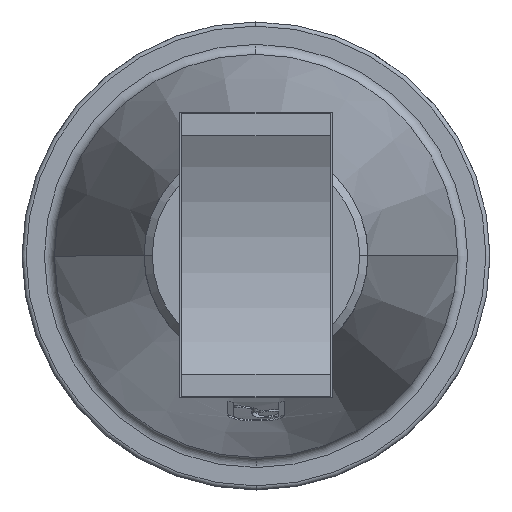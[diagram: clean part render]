
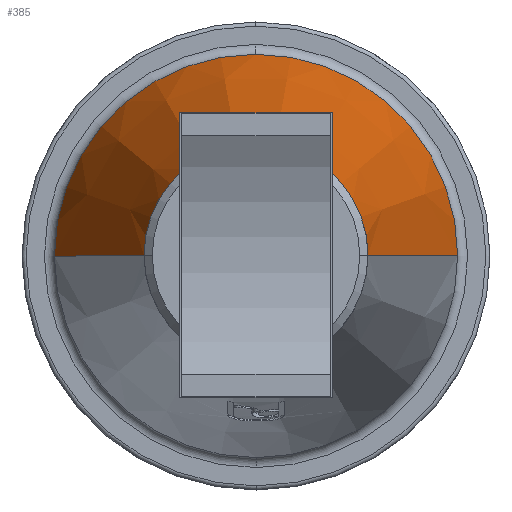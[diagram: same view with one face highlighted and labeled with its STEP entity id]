
A CAD part, top view. The second image highlights one B-rep face of the part: STEP entity #385.
In plain terms, the highlighted conical face has half-angle 12.633 degrees and reference radius 77.092 mm.
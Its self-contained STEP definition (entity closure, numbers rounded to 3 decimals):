
#385=ADVANCED_FACE('',(#761),#762,.T.);
#761=FACE_OUTER_BOUND('',#1162,.T.);
#762=CONICAL_SURFACE('',#1163,77.092,0.22);
#1162=EDGE_LOOP('',(#2055,#2056,#2057,#2058,#2059));
#1163=AXIS2_PLACEMENT_3D('',#2060,#2061,#2062);
#2055=ORIENTED_EDGE('',*,*,#2506,.T.);
#2056=ORIENTED_EDGE('',*,*,#2622,.F.);
#2057=ORIENTED_EDGE('',*,*,#2475,.F.);
#2058=ORIENTED_EDGE('',*,*,#2508,.T.);
#2059=ORIENTED_EDGE('',*,*,#2623,.T.);
#2060=CARTESIAN_POINT('',(476.65,554.605,-90.568));
#2061=DIRECTION('',(0.,0.,-1.0));
#2062=DIRECTION('',(1.,0.001,0.));
#2475=EDGE_CURVE('',#2955,#2957,#2958,.T.);
#2506=EDGE_CURVE('',#3011,#3012,#3013,.T.);
#2508=EDGE_CURVE('',#2955,#3014,#3016,.T.);
#2622=EDGE_CURVE('',#2957,#3012,#3189,.T.);
#2623=EDGE_CURVE('',#3014,#3011,#3190,.T.);
#2955=VERTEX_POINT('',#3709);
#2957=VERTEX_POINT('',#3711);
#2958=CIRCLE('',#3712,99.123);
#3011=VERTEX_POINT('',#3853);
#3012=VERTEX_POINT('',#3854);
#3013=LINE('',#3855,#3856);
#3014=VERTEX_POINT('',#3857);
#3016=LINE('',#3859,#3860);
#3189=CIRCLE('',#4473,99.123);
#3190=CIRCLE('',#4474,55.061);
#3709=CARTESIAN_POINT('',(377.528,554.492,-188.86));
#3711=CARTESIAN_POINT('',(476.537,653.727,-188.86));
#3712=AXIS2_PLACEMENT_3D('',#4795,#4796,#4797);
#3853=CARTESIAN_POINT('',(531.711,554.667,7.725));
#3854=CARTESIAN_POINT('',(575.773,554.718,-188.86));
#3855=CARTESIAN_POINT('',(553.742,554.692,-90.568));
#3856=VECTOR('',#4845,1.0);
#3857=CARTESIAN_POINT('',(421.59,554.542,7.725));
#3859=CARTESIAN_POINT('',(399.559,554.517,-90.568));
#3860=VECTOR('',#4849,1.0);
#4473=AXIS2_PLACEMENT_3D('',#4956,#4957,#4958);
#4474=AXIS2_PLACEMENT_3D('',#4959,#4960,#4961);
#4795=CARTESIAN_POINT('',(476.65,554.605,-188.86));
#4796=DIRECTION('',(0.,0.,-1.0));
#4797=DIRECTION('',(1.,0.001,0.));
#4845=DIRECTION('',(0.219,0.,-0.976));
#4849=DIRECTION('',(0.219,0.,0.976));
#4956=CARTESIAN_POINT('',(476.65,554.605,-188.86));
#4957=DIRECTION('',(0.,0.,-1.0));
#4958=DIRECTION('',(1.,0.001,0.));
#4959=CARTESIAN_POINT('',(476.65,554.605,7.725));
#4960=DIRECTION('',(0.,0.,-1.0));
#4961=DIRECTION('',(1.,0.001,0.));
